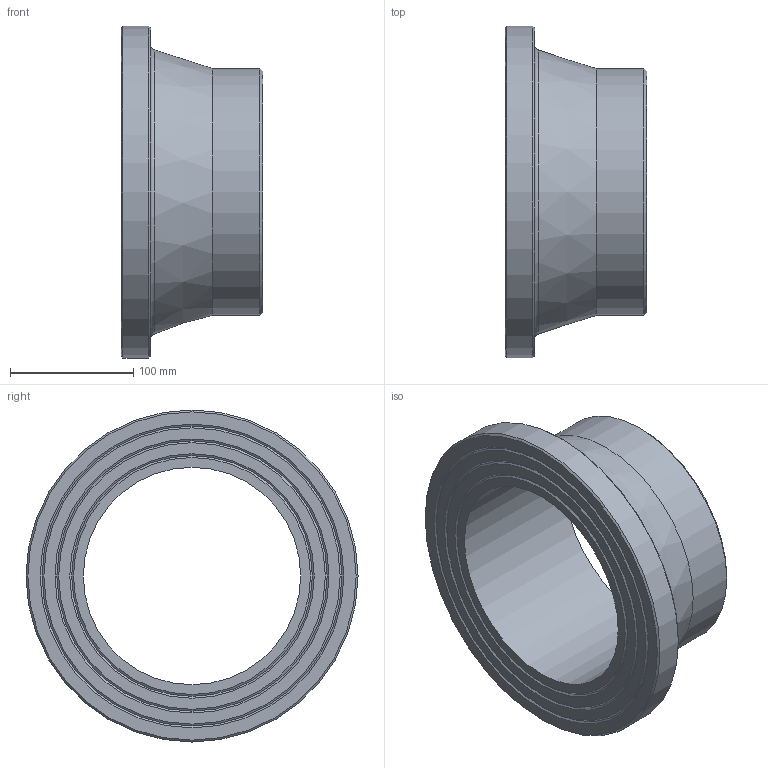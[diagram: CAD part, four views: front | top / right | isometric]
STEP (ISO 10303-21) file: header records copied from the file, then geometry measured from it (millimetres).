
FILE_DESCRIPTION(/* description */ ('Unknown'),/* implementation_level */ '2;1');
FILE_NAME(/* name */ 'CCP200B',/* time_stamp */ '2022-04-04T16:45:32+02:00',/* author */ ('Unknown'),/* organization */ ('Unknown'),/* preprocessor_version */ 'ST-DEVELOPER v18.1',/* originating_system */ 'Solid Edge',/* authorisation */ 'Unknown');
FILE_SCHEMA (('AUTOMOTIVE_DESIGN {1 0 10303 214 3 1 1}'));
Length unit declared in the file: millimetre
Products named in the file (1): CCP200B
Bounding box: 115 x 269 x 269 mm (x, y, z)
Volume: 1677331 mm3; surface area: 197856.4 mm2
Topology: 1 solids, 1 shells, 20 faces, 35 edges, 21 vertices
Faces by surface type: cone 10, plane 6, cylinder 3, torus 1
Full cylindrical faces by diameter (mm): 176.2 x1, 200 x1, 269 x1
Entity records: 438 total; most frequent: DIRECTION 82, CARTESIAN_POINT 61, AXIS2_PLACEMENT_3D 41, ORIENTED_EDGE 40, EDGE_LOOP 40, FACE_BOUND 40, EDGE_CURVE 20, VERTEX_POINT 20
